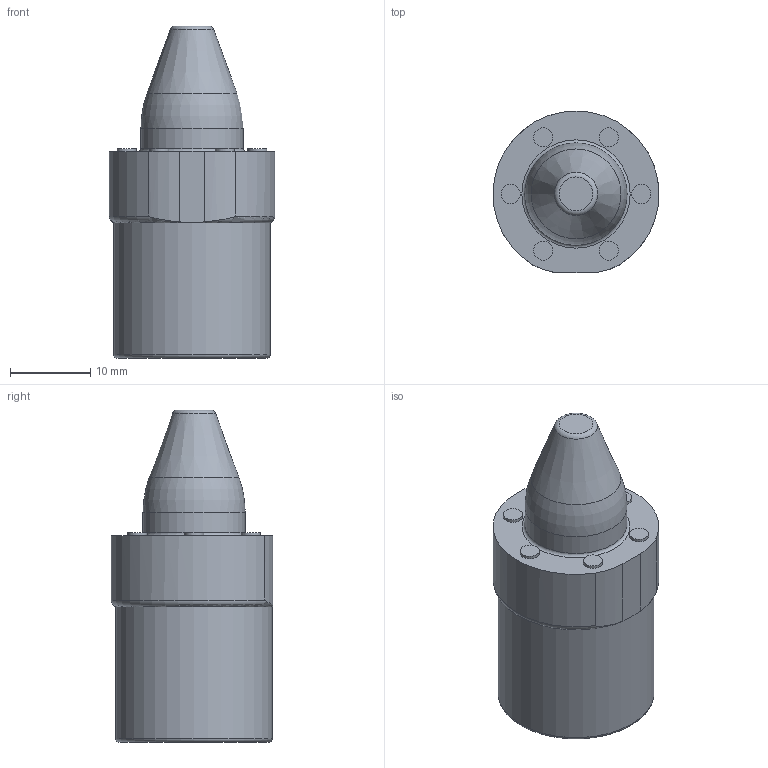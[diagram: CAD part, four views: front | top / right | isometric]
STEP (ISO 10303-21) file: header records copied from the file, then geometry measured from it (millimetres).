
FILE_DESCRIPTION (( 'STEP AP214' ), '1' );
FILE_NAME ('PA-.500-.100-S-P-BT.STEP', '2023-12-06T12:02:59', ( '' ), ( '' ), 'SwSTEP 2.0', 'SolidWorks 2020', '' );
FILE_SCHEMA (( 'AUTOMOTIVE_DESIGN' ));
Length unit declared in the file: inch
Products named in the file (1): PA-.500-.100-S-P-BT
Bounding box: 20.64 x 20.12 x 41.27 mm (x, y, z)
Volume: 8758.2 mm3; surface area: 2961 mm2
Topology: 1 solids, 1 shells, 31 faces, 59 edges, 37 vertices
Faces by surface type: cylinder 13, plane 10, torus 5, cone 3
Full cylindrical faces by diameter (mm): 2.388 x6, 5.105 x1, 6.35 x1, 12.7 x1, 19.431 x1
Entity records: 867 total; most frequent: CARTESIAN_POINT 145, DIRECTION 127, ORIENTED_EDGE 74, AXIS2_PLACEMENT_3D 61, EDGE_LOOP 56, FACE_OUTER_BOUND 46, EDGE_CURVE 37, VERTEX_POINT 33
